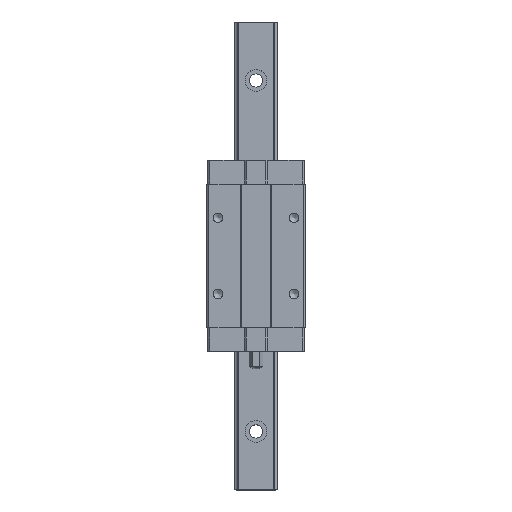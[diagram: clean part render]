
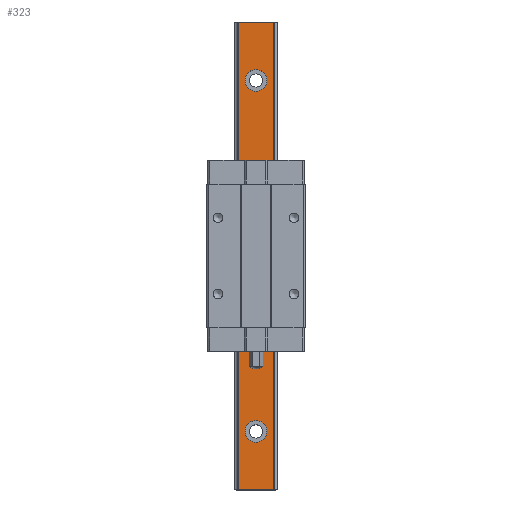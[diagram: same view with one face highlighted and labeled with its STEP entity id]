
A CAD part, top view. The second image highlights one B-rep face of the part: STEP entity #323.
In plain terms, the highlighted planar face has unit normal (0, 0, 1).
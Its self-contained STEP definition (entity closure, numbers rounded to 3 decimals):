
#323 = ADVANCED_FACE( '', ( #726, #727, #728, #729 ), #730, .T. );
#726 = FACE_BOUND( '', #1251, .T. );
#727 = FACE_BOUND( '', #1252, .T. );
#728 = FACE_BOUND( '', #1253, .T. );
#729 = FACE_OUTER_BOUND( '', #1254, .T. );
#730 = PLANE( '', #1255 );
#1251 = EDGE_LOOP( '', ( #1990 ) );
#1252 = EDGE_LOOP( '', ( #1991 ) );
#1253 = EDGE_LOOP( '', ( #1992 ) );
#1254 = EDGE_LOOP( '', ( #1993, #1994, #1995, #1996 ) );
#1255 = AXIS2_PLACEMENT_3D( '', #1997, #1998, #1999 );
#1990 = ORIENTED_EDGE( '', *, *, #3252, .T. );
#1991 = ORIENTED_EDGE( '', *, *, #3119, .T. );
#1992 = ORIENTED_EDGE( '', *, *, #3253, .T. );
#1993 = ORIENTED_EDGE( '', *, *, #3059, .F. );
#1994 = ORIENTED_EDGE( '', *, *, #3254, .F. );
#1995 = ORIENTED_EDGE( '', *, *, #3255, .T. );
#1996 = ORIENTED_EDGE( '', *, *, #3256, .T. );
#1997 = CARTESIAN_POINT( '', ( -6.004, -80., 13. ) );
#1998 = DIRECTION( '', ( 0., 0., 1. ) );
#1999 = DIRECTION( '', ( 1., 0., 0. ) );
#3059 = EDGE_CURVE( '', #3626, #3628, #3629, .T. );
#3119 = EDGE_CURVE( '', #3742, #3742, #3743, .T. );
#3252 = EDGE_CURVE( '', #3953, #3953, #3954, .T. );
#3253 = EDGE_CURVE( '', #3955, #3955, #3956, .T. );
#3254 = EDGE_CURVE( '', #3957, #3626, #3958, .T. );
#3255 = EDGE_CURVE( '', #3957, #3959, #3960, .T. );
#3256 = EDGE_CURVE( '', #3959, #3628, #3961, .T. );
#3626 = VERTEX_POINT( '', #4452 );
#3628 = VERTEX_POINT( '', #4454 );
#3629 = LINE( '', #4455, #4456 );
#3742 = VERTEX_POINT( '', #4608 );
#3743 = CIRCLE( '', #4609, 3.75 );
#3953 = VERTEX_POINT( '', #4888 );
#3954 = CIRCLE( '', #4889, 3.75 );
#3955 = VERTEX_POINT( '', #4890 );
#3956 = CIRCLE( '', #4891, 3.75 );
#3957 = VERTEX_POINT( '', #4892 );
#3958 = LINE( '', #4893, #4894 );
#3959 = VERTEX_POINT( '', #4895 );
#3960 = LINE( '', #4896, #4897 );
#3961 = LINE( '', #4898, #4899 );
#4452 = CARTESIAN_POINT( '', ( -6.004, 80., 13. ) );
#4454 = CARTESIAN_POINT( '', ( 6.004, 80., 13. ) );
#4455 = CARTESIAN_POINT( '', ( -6.004, 80., 13. ) );
#4456 = VECTOR( '', #5539, 1000. );
#4608 = CARTESIAN_POINT( '', ( 0., -3.75, 13. ) );
#4609 = AXIS2_PLACEMENT_3D( '', #5624, #5625, #5626 );
#4888 = CARTESIAN_POINT( '', ( 0., -63.75, 13. ) );
#4889 = AXIS2_PLACEMENT_3D( '', #5787, #5788, #5789 );
#4890 = CARTESIAN_POINT( '', ( 0., 56.25, 13. ) );
#4891 = AXIS2_PLACEMENT_3D( '', #5790, #5791, #5792 );
#4892 = CARTESIAN_POINT( '', ( -6.004, -80., 13. ) );
#4893 = CARTESIAN_POINT( '', ( -6.004, -80., 13. ) );
#4894 = VECTOR( '', #5793, 1000. );
#4895 = CARTESIAN_POINT( '', ( 6.004, -80., 13. ) );
#4896 = CARTESIAN_POINT( '', ( -6.004, -80., 13. ) );
#4897 = VECTOR( '', #5794, 1000. );
#4898 = CARTESIAN_POINT( '', ( 6.004, -80., 13. ) );
#4899 = VECTOR( '', #5795, 1000. );
#5539 = DIRECTION( '', ( 1., 0., 0. ) );
#5624 = CARTESIAN_POINT( '', ( 0., 0., 13. ) );
#5625 = DIRECTION( '', ( 0., 0., -1. ) );
#5626 = DIRECTION( '', ( 0., -1., 0. ) );
#5787 = CARTESIAN_POINT( '', ( 0., -60., 13. ) );
#5788 = DIRECTION( '', ( 0., 0., -1. ) );
#5789 = DIRECTION( '', ( 0., -1., 0. ) );
#5790 = CARTESIAN_POINT( '', ( 0., 60., 13. ) );
#5791 = DIRECTION( '', ( 0., 0., -1. ) );
#5792 = DIRECTION( '', ( 0., -1., 0. ) );
#5793 = DIRECTION( '', ( 0., 1., 0. ) );
#5794 = DIRECTION( '', ( 1., 0., 0. ) );
#5795 = DIRECTION( '', ( 0., 1., 0. ) );
